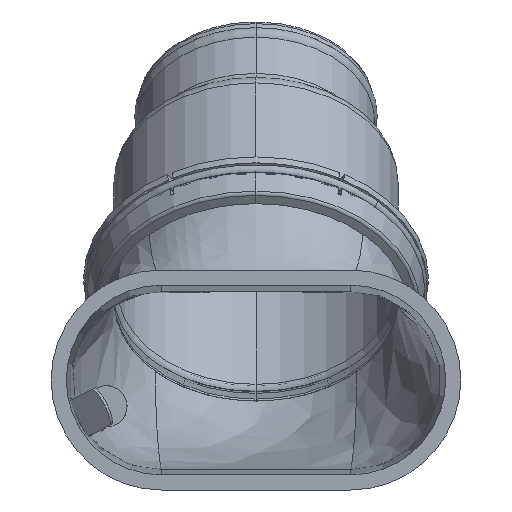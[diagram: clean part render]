
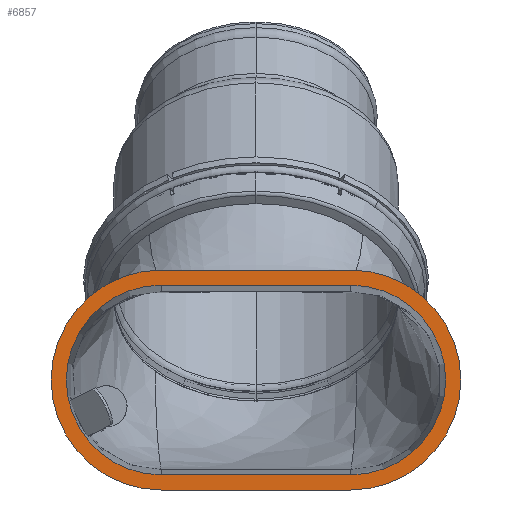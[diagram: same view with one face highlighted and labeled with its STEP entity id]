
A CAD part, top view. The second image highlights one B-rep face of the part: STEP entity #6857.
In plain terms, the highlighted planar face has unit normal (0, 0, 1) as drawn and (0, -1, 0) by its records, which use the part's own axes.
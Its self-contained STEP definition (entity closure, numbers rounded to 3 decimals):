
#794=CARTESIAN_POINT('',(-50.,0.,0.));
#795=DIRECTION('',(0.,1.,0.));
#796=DIRECTION('',(0.,0.,-1.));
#797=AXIS2_PLACEMENT_3D('',#794,#795,#796);
#802=DIRECTION('',(1.,0.,0.));
#803=VECTOR('',#802,100.);
#804=CARTESIAN_POINT('',(-50.,0.,58.001));
#805=LINE('',#804,#803);
#809=CARTESIAN_POINT('',(50.,0.,0.));
#810=DIRECTION('',(0.,1.,0.));
#811=DIRECTION('',(0.,0.,1.));
#812=AXIS2_PLACEMENT_3D('',#809,#810,#811);
#817=DIRECTION('',(-1.,0.,0.));
#818=VECTOR('',#817,100.);
#819=CARTESIAN_POINT('',(50.,0.,-58.001));
#820=LINE('',#819,#818);
#824=CARTESIAN_POINT('',(-50.,0.,0.));
#825=DIRECTION('',(0.,1.,0.));
#826=DIRECTION('',(0.,0.,-1.));
#827=AXIS2_PLACEMENT_3D('',#824,#825,#826);
#832=DIRECTION('',(-1.,0.,0.));
#833=VECTOR('',#832,100.);
#834=CARTESIAN_POINT('',(50.,0.,-50.));
#835=LINE('',#834,#833);
#839=CARTESIAN_POINT('',(50.,0.,0.));
#840=DIRECTION('',(0.,1.,0.));
#841=DIRECTION('',(0.,0.,1.));
#842=AXIS2_PLACEMENT_3D('',#839,#840,#841);
#847=DIRECTION('',(1.,0.,0.));
#848=VECTOR('',#847,100.);
#849=CARTESIAN_POINT('',(-50.,0.,50.));
#850=LINE('',#849,#848);
#5573=CARTESIAN_POINT('',(-50.,0.,-50.));
#5574=CARTESIAN_POINT('',(-50.,0.,50.));
#5575=VERTEX_POINT('',#5573);
#5576=VERTEX_POINT('',#5574);
#5577=CARTESIAN_POINT('',(50.,0.,50.));
#5578=VERTEX_POINT('',#5577);
#5579=CARTESIAN_POINT('',(50.,0.,-50.));
#5580=VERTEX_POINT('',#5579);
#5670=CARTESIAN_POINT('',(-50.,0.,-58.001));
#5672=VERTEX_POINT('',#5670);
#5674=CARTESIAN_POINT('',(-50.,0.,58.001));
#5676=VERTEX_POINT('',#5674);
#5678=CARTESIAN_POINT('',(50.,0.,58.001));
#5680=VERTEX_POINT('',#5678);
#5682=CARTESIAN_POINT('',(50.,0.,-58.001));
#5684=VERTEX_POINT('',#5682);
#6835=CARTESIAN_POINT('',(0.,0.,0.));
#6836=DIRECTION('',(0.,1.,0.));
#6837=DIRECTION('',(1.,0.,0.));
#6838=AXIS2_PLACEMENT_3D('',#6835,#6836,#6837);
#6839=PLANE('',#6838);
#6841=ORIENTED_EDGE('',*,*,#6840,.T.);
#6843=ORIENTED_EDGE('',*,*,#6842,.T.);
#6845=ORIENTED_EDGE('',*,*,#6844,.T.);
#6847=ORIENTED_EDGE('',*,*,#6846,.T.);
#6848=EDGE_LOOP('',(#6841,#6843,#6845,#6847));
#6849=FACE_OUTER_BOUND('',#6848,.F.);
#6851=ORIENTED_EDGE('',*,*,#6850,.F.);
#6852=ORIENTED_EDGE('',*,*,#6781,.F.);
#6853=ORIENTED_EDGE('',*,*,#6806,.F.);
#6854=ORIENTED_EDGE('',*,*,#6826,.F.);
#6855=EDGE_LOOP('',(#6851,#6852,#6853,#6854));
#6856=FACE_BOUND('',#6855,.F.);
#798=CIRCLE('',#797,58.001);
#813=CIRCLE('',#812,58.001);
#828=CIRCLE('',#827,50.);
#843=CIRCLE('',#842,50.);
#6781=EDGE_CURVE('',#5580,#5575,#835,.T.);
#6806=EDGE_CURVE('',#5578,#5580,#843,.T.);
#6826=EDGE_CURVE('',#5576,#5578,#850,.T.);
#6840=EDGE_CURVE('',#5672,#5676,#798,.T.);
#6842=EDGE_CURVE('',#5676,#5680,#805,.T.);
#6844=EDGE_CURVE('',#5680,#5684,#813,.T.);
#6846=EDGE_CURVE('',#5684,#5672,#820,.T.);
#6850=EDGE_CURVE('',#5575,#5576,#828,.T.);
#6857=ADVANCED_FACE('',(#6849,#6856),#6839,.F.);
